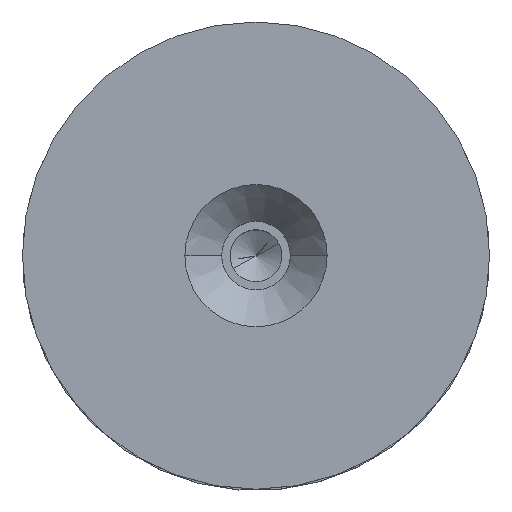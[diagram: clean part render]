
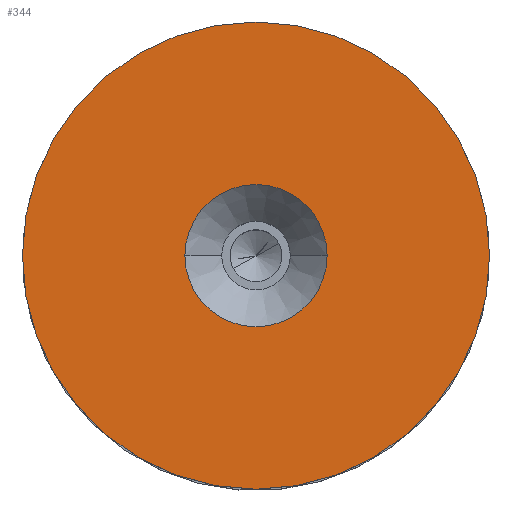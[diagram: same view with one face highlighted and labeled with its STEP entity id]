
A CAD part, top view. The second image highlights one B-rep face of the part: STEP entity #344.
In plain terms, the highlighted planar face has unit normal (0, 0, 1).
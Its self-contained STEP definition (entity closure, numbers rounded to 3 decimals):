
#34 = EDGE_CURVE ( 'NONE', #420, #733, #218, .T. ) ;
#78 = VERTEX_POINT ( 'NONE', #439 ) ;
#115 = EDGE_LOOP ( 'NONE', ( #826, #815 ) ) ;
#116 = CARTESIAN_POINT ( 'NONE',  ( 6.85, 0., 5. ) ) ;
#123 = CIRCLE ( 'NONE', #573, 22.5 ) ;
#132 = ORIENTED_EDGE ( 'NONE', *, *, #34, .T. ) ;
#138 = CARTESIAN_POINT ( 'NONE',  ( 0., 0., 5. ) ) ;
#152 = DIRECTION ( 'NONE',  ( 0., 0., -1. ) ) ;
#155 = EDGE_LOOP ( 'NONE', ( #132, #432 ) ) ;
#195 = CIRCLE ( 'NONE', #324, 22.5 ) ;
#218 = CIRCLE ( 'NONE', #449, 6.85 ) ;
#219 = AXIS2_PLACEMENT_3D ( 'NONE', #138, #152, #401 ) ;
#250 = EDGE_CURVE ( 'NONE', #78, #256, #123, .T. ) ;
#256 = VERTEX_POINT ( 'NONE', #674 ) ;
#266 = CIRCLE ( 'NONE', #219, 6.85 ) ;
#269 = CARTESIAN_POINT ( 'NONE',  ( 0., 0., 5. ) ) ;
#272 = EDGE_CURVE ( 'NONE', #256, #78, #195, .T. ) ;
#324 = AXIS2_PLACEMENT_3D ( 'NONE', #782, #653, #774 ) ;
#344 = ADVANCED_FACE ( 'NONE', ( #755, #806 ), #453, .T. ) ;
#401 = DIRECTION ( 'NONE',  ( 1., 0., 0. ) ) ;
#414 = DIRECTION ( 'NONE',  ( 1., 0., 0. ) ) ;
#420 = VERTEX_POINT ( 'NONE', #116 ) ;
#432 = ORIENTED_EDGE ( 'NONE', *, *, #483, .T. ) ;
#439 = CARTESIAN_POINT ( 'NONE',  ( -22.5, 0., 5. ) ) ;
#449 = AXIS2_PLACEMENT_3D ( 'NONE', #658, #689, #813 ) ;
#453 = PLANE ( 'NONE',  #491 ) ;
#483 = EDGE_CURVE ( 'NONE', #733, #420, #266, .T. ) ;
#491 = AXIS2_PLACEMENT_3D ( 'NONE', #856, #812, #686 ) ;
#573 = AXIS2_PLACEMENT_3D ( 'NONE', #269, #778, #414 ) ;
#653 = DIRECTION ( 'NONE',  ( 0., 0., 1. ) ) ;
#658 = CARTESIAN_POINT ( 'NONE',  ( 0., 0., 5. ) ) ;
#674 = CARTESIAN_POINT ( 'NONE',  ( 22.5, 0., 5. ) ) ;
#686 = DIRECTION ( 'NONE',  ( 1., 0., 0. ) ) ;
#689 = DIRECTION ( 'NONE',  ( 0., 0., -1. ) ) ;
#733 = VERTEX_POINT ( 'NONE', #842 ) ;
#755 = FACE_BOUND ( 'NONE', #155, .T. ) ;
#774 = DIRECTION ( 'NONE',  ( 1., 0., 0. ) ) ;
#778 = DIRECTION ( 'NONE',  ( 0., 0., 1. ) ) ;
#782 = CARTESIAN_POINT ( 'NONE',  ( 0., 0., 5. ) ) ;
#806 = FACE_OUTER_BOUND ( 'NONE', #115, .T. ) ;
#812 = DIRECTION ( 'NONE',  ( 0., 0., 1. ) ) ;
#813 = DIRECTION ( 'NONE',  ( 1., 0., 0. ) ) ;
#815 = ORIENTED_EDGE ( 'NONE', *, *, #272, .T. ) ;
#826 = ORIENTED_EDGE ( 'NONE', *, *, #250, .T. ) ;
#842 = CARTESIAN_POINT ( 'NONE',  ( -6.85, 0., 5. ) ) ;
#856 = CARTESIAN_POINT ( 'NONE',  ( 0., 0., 5. ) ) ;
